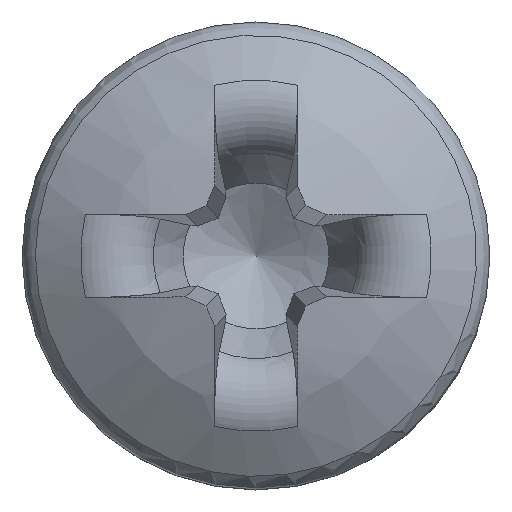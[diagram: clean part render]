
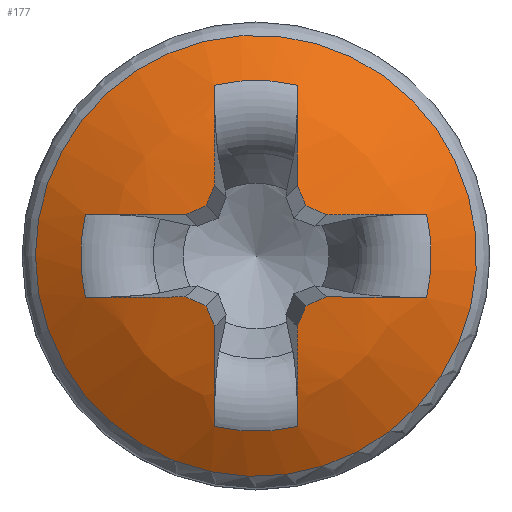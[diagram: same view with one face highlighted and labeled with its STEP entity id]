
A CAD part, top view. The second image highlights one B-rep face of the part: STEP entity #177.
In plain terms, the highlighted spherical face has radius 2.14 mm.
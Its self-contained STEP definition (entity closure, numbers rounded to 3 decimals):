
#140=SPHERICAL_SURFACE('',#1097,2.14);
#151=FACE_BOUND('',#295,.T.);
#152=FACE_BOUND('',#296,.T.);
#177=ADVANCED_FACE('',(#151,#152),#140,.T.);
#295=EDGE_LOOP('',(#431));
#296=EDGE_LOOP('',(#432,#433,#434,#435,#436,#437,#438,#439,#440,#441,#442,
#443,#444,#445,#446,#447,#448,#449,#450,#451));
#364=CIRCLE('',#1076,1.226);
#365=CIRCLE('',#1077,2.14);
#366=CIRCLE('',#1078,0.976);
#367=CIRCLE('',#1079,2.14);
#368=CIRCLE('',#1080,2.138);
#369=CIRCLE('',#1081,2.138);
#370=CIRCLE('',#1082,2.14);
#371=CIRCLE('',#1083,0.976);
#372=CIRCLE('',#1084,2.14);
#373=CIRCLE('',#1085,2.138);
#374=CIRCLE('',#1086,2.138);
#375=CIRCLE('',#1087,2.14);
#376=CIRCLE('',#1088,0.976);
#377=CIRCLE('',#1089,2.14);
#378=CIRCLE('',#1090,2.138);
#379=CIRCLE('',#1091,2.138);
#380=CIRCLE('',#1092,2.14);
#381=CIRCLE('',#1093,0.976);
#382=CIRCLE('',#1094,2.14);
#383=CIRCLE('',#1095,2.138);
#384=CIRCLE('',#1096,2.138);
#431=ORIENTED_EDGE('',*,*,#853,.T.);
#432=ORIENTED_EDGE('',*,*,#854,.F.);
#433=ORIENTED_EDGE('',*,*,#855,.T.);
#434=ORIENTED_EDGE('',*,*,#856,.F.);
#435=ORIENTED_EDGE('',*,*,#857,.F.);
#436=ORIENTED_EDGE('',*,*,#858,.F.);
#437=ORIENTED_EDGE('',*,*,#859,.F.);
#438=ORIENTED_EDGE('',*,*,#860,.T.);
#439=ORIENTED_EDGE('',*,*,#861,.F.);
#440=ORIENTED_EDGE('',*,*,#862,.F.);
#441=ORIENTED_EDGE('',*,*,#863,.F.);
#442=ORIENTED_EDGE('',*,*,#864,.F.);
#443=ORIENTED_EDGE('',*,*,#865,.T.);
#444=ORIENTED_EDGE('',*,*,#866,.F.);
#445=ORIENTED_EDGE('',*,*,#867,.F.);
#446=ORIENTED_EDGE('',*,*,#868,.F.);
#447=ORIENTED_EDGE('',*,*,#869,.F.);
#448=ORIENTED_EDGE('',*,*,#870,.T.);
#449=ORIENTED_EDGE('',*,*,#871,.F.);
#450=ORIENTED_EDGE('',*,*,#872,.F.);
#451=ORIENTED_EDGE('',*,*,#873,.F.);
#743=VERTEX_POINT('',#2487);
#744=VERTEX_POINT('',#2489);
#745=VERTEX_POINT('',#2490);
#746=VERTEX_POINT('',#2492);
#747=VERTEX_POINT('',#2494);
#748=VERTEX_POINT('',#2496);
#749=VERTEX_POINT('',#2498);
#750=VERTEX_POINT('',#2500);
#751=VERTEX_POINT('',#2502);
#752=VERTEX_POINT('',#2504);
#753=VERTEX_POINT('',#2506);
#754=VERTEX_POINT('',#2508);
#755=VERTEX_POINT('',#2510);
#756=VERTEX_POINT('',#2512);
#757=VERTEX_POINT('',#2514);
#758=VERTEX_POINT('',#2516);
#759=VERTEX_POINT('',#2518);
#760=VERTEX_POINT('',#2520);
#761=VERTEX_POINT('',#2522);
#762=VERTEX_POINT('',#2524);
#763=VERTEX_POINT('',#2526);
#853=EDGE_CURVE('',#743,#743,#364,.T.);
#854=EDGE_CURVE('',#744,#745,#365,.T.);
#855=EDGE_CURVE('',#744,#746,#366,.T.);
#856=EDGE_CURVE('',#747,#746,#367,.T.);
#857=EDGE_CURVE('',#748,#747,#368,.T.);
#858=EDGE_CURVE('',#749,#748,#369,.T.);
#859=EDGE_CURVE('',#750,#749,#370,.T.);
#860=EDGE_CURVE('',#750,#751,#371,.T.);
#861=EDGE_CURVE('',#752,#751,#372,.T.);
#862=EDGE_CURVE('',#753,#752,#373,.T.);
#863=EDGE_CURVE('',#754,#753,#374,.T.);
#864=EDGE_CURVE('',#755,#754,#375,.T.);
#865=EDGE_CURVE('',#755,#756,#376,.T.);
#866=EDGE_CURVE('',#757,#756,#377,.T.);
#867=EDGE_CURVE('',#758,#757,#378,.T.);
#868=EDGE_CURVE('',#759,#758,#379,.T.);
#869=EDGE_CURVE('',#760,#759,#380,.T.);
#870=EDGE_CURVE('',#760,#761,#381,.T.);
#871=EDGE_CURVE('',#762,#761,#382,.T.);
#872=EDGE_CURVE('',#763,#762,#383,.T.);
#873=EDGE_CURVE('',#745,#763,#384,.T.);
#1076=AXIS2_PLACEMENT_3D('',#2486,#1164,#1165);
#1077=AXIS2_PLACEMENT_3D('',#2488,#1166,#1167);
#1078=AXIS2_PLACEMENT_3D('',#2491,#1168,#1169);
#1079=AXIS2_PLACEMENT_3D('',#2493,#1170,#1171);
#1080=AXIS2_PLACEMENT_3D('',#2495,#1172,#1173);
#1081=AXIS2_PLACEMENT_3D('',#2497,#1174,#1175);
#1082=AXIS2_PLACEMENT_3D('',#2499,#1176,#1177);
#1083=AXIS2_PLACEMENT_3D('',#2501,#1178,#1179);
#1084=AXIS2_PLACEMENT_3D('',#2503,#1180,#1181);
#1085=AXIS2_PLACEMENT_3D('',#2505,#1182,#1183);
#1086=AXIS2_PLACEMENT_3D('',#2507,#1184,#1185);
#1087=AXIS2_PLACEMENT_3D('',#2509,#1186,#1187);
#1088=AXIS2_PLACEMENT_3D('',#2511,#1188,#1189);
#1089=AXIS2_PLACEMENT_3D('',#2513,#1190,#1191);
#1090=AXIS2_PLACEMENT_3D('',#2515,#1192,#1193);
#1091=AXIS2_PLACEMENT_3D('',#2517,#1194,#1195);
#1092=AXIS2_PLACEMENT_3D('',#2519,#1196,#1197);
#1093=AXIS2_PLACEMENT_3D('',#2521,#1198,#1199);
#1094=AXIS2_PLACEMENT_3D('',#2523,#1200,#1201);
#1095=AXIS2_PLACEMENT_3D('',#2525,#1202,#1203);
#1096=AXIS2_PLACEMENT_3D('',#2527,#1204,#1205);
#1097=AXIS2_PLACEMENT_3D('',#2528,#1206,#1207);
#1164=DIRECTION('',(0.,0.,1.));
#1165=DIRECTION('',(-1.,0.,0.));
#1166=DIRECTION('',(-0.035,0.996,0.087));
#1167=DIRECTION('',(0.,-0.087,0.996));
#1168=DIRECTION('',(0.,0.,-1.));
#1169=DIRECTION('',(-1.,0.,0.));
#1170=DIRECTION('',(-0.035,-0.996,0.087));
#1171=DIRECTION('',(0.,-0.087,-0.996));
#1172=DIRECTION('',(0.388,-0.914,0.122));
#1173=DIRECTION('',(0.921,0.391,0.));
#1174=DIRECTION('',(0.914,-0.388,0.122));
#1175=DIRECTION('',(0.391,0.921,0.));
#1176=DIRECTION('',(0.996,0.035,0.087));
#1177=DIRECTION('',(0.087,0.,-0.996));
#1178=DIRECTION('',(0.,0.,-1.));
#1179=DIRECTION('',(-1.,0.,0.));
#1180=DIRECTION('',(-0.996,0.035,0.087));
#1181=DIRECTION('',(0.087,0.,0.996));
#1182=DIRECTION('',(-0.914,-0.388,0.122));
#1183=DIRECTION('',(0.391,-0.921,0.));
#1184=DIRECTION('',(-0.388,-0.914,0.122));
#1185=DIRECTION('',(0.921,-0.391,0.));
#1186=DIRECTION('',(0.035,-0.996,0.087));
#1187=DIRECTION('',(0.,-0.087,-0.996));
#1188=DIRECTION('',(0.,0.,-1.));
#1189=DIRECTION('',(-1.,0.,0.));
#1190=DIRECTION('',(0.035,0.996,0.087));
#1191=DIRECTION('',(0.,-0.087,0.996));
#1192=DIRECTION('',(-0.388,0.914,0.122));
#1193=DIRECTION('',(-0.921,-0.391,0.));
#1194=DIRECTION('',(-0.914,0.388,0.122));
#1195=DIRECTION('',(-0.391,-0.921,0.));
#1196=DIRECTION('',(-0.996,-0.035,0.087));
#1197=DIRECTION('',(0.087,0.,0.996));
#1198=DIRECTION('',(0.,0.,-1.));
#1199=DIRECTION('',(-1.,0.,0.));
#1200=DIRECTION('',(0.996,-0.035,0.087));
#1201=DIRECTION('',(0.087,0.,-0.996));
#1202=DIRECTION('',(0.914,0.388,0.122));
#1203=DIRECTION('',(-0.391,0.921,0.));
#1204=DIRECTION('',(0.388,0.914,0.122));
#1205=DIRECTION('',(-0.921,0.391,0.));
#1206=DIRECTION('',(0.,0.,1.));
#1207=DIRECTION('',(0.,1.,0.));
#2486=CARTESIAN_POINT('',(0.,0.,0.714));
#2487=CARTESIAN_POINT('',(-1.226,0.,0.714));
#2488=CARTESIAN_POINT('',(0.001,-0.031,-1.043));
#2489=CARTESIAN_POINT('',(-0.948,-0.231,0.865));
#2490=CARTESIAN_POINT('',(-0.392,-0.228,1.051));
#2491=CARTESIAN_POINT('',(0.,0.,0.865));
#2492=CARTESIAN_POINT('',(-0.948,0.231,0.865));
#2493=CARTESIAN_POINT('',(0.001,0.031,-1.043));
#2494=CARTESIAN_POINT('',(-0.392,0.228,1.051));
#2495=CARTESIAN_POINT('',(-0.041,0.096,-1.053));
#2496=CARTESIAN_POINT('',(-0.278,0.278,1.064));
#2497=CARTESIAN_POINT('',(-0.096,0.041,-1.053));
#2498=CARTESIAN_POINT('',(-0.228,0.392,1.051));
#2499=CARTESIAN_POINT('',(-0.031,-0.001,-1.043));
#2500=CARTESIAN_POINT('',(-0.231,0.948,0.865));
#2501=CARTESIAN_POINT('',(0.,0.,0.865));
#2502=CARTESIAN_POINT('',(0.231,0.948,0.865));
#2503=CARTESIAN_POINT('',(0.031,-0.001,-1.043));
#2504=CARTESIAN_POINT('',(0.228,0.392,1.051));
#2505=CARTESIAN_POINT('',(0.096,0.041,-1.053));
#2506=CARTESIAN_POINT('',(0.278,0.278,1.064));
#2507=CARTESIAN_POINT('',(0.041,0.096,-1.053));
#2508=CARTESIAN_POINT('',(0.392,0.228,1.051));
#2509=CARTESIAN_POINT('',(-0.001,0.031,-1.043));
#2510=CARTESIAN_POINT('',(0.948,0.231,0.865));
#2511=CARTESIAN_POINT('',(0.,0.,0.865));
#2512=CARTESIAN_POINT('',(0.948,-0.231,0.865));
#2513=CARTESIAN_POINT('',(-0.001,-0.031,-1.043));
#2514=CARTESIAN_POINT('',(0.392,-0.228,1.051));
#2515=CARTESIAN_POINT('',(0.041,-0.096,-1.053));
#2516=CARTESIAN_POINT('',(0.278,-0.278,1.064));
#2517=CARTESIAN_POINT('',(0.096,-0.041,-1.053));
#2518=CARTESIAN_POINT('',(0.228,-0.392,1.051));
#2519=CARTESIAN_POINT('',(0.031,0.001,-1.043));
#2520=CARTESIAN_POINT('',(0.231,-0.948,0.865));
#2521=CARTESIAN_POINT('',(0.,0.,0.865));
#2522=CARTESIAN_POINT('',(-0.231,-0.948,0.865));
#2523=CARTESIAN_POINT('',(-0.031,0.001,-1.043));
#2524=CARTESIAN_POINT('',(-0.228,-0.392,1.051));
#2525=CARTESIAN_POINT('',(-0.096,-0.041,-1.053));
#2526=CARTESIAN_POINT('',(-0.278,-0.278,1.064));
#2527=CARTESIAN_POINT('',(-0.041,-0.096,-1.053));
#2528=CARTESIAN_POINT('',(0.,0.,-1.04));
